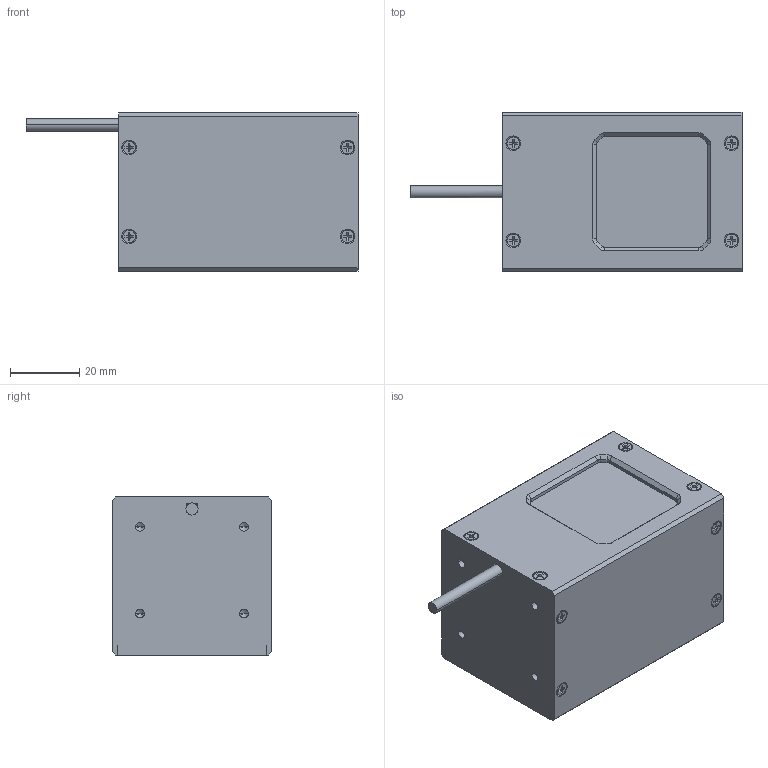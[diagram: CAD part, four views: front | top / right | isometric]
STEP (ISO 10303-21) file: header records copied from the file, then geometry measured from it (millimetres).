
FILE_DESCRIPTION((''),'2;1');
FILE_NAME('PRT0002','2022-10-19T01:14:01',('jiabaodong'),(''),'CREO PARAMETRIC BY PTC INC, 2020044','CREO PARAMETRIC BY PTC INC, 2020044','');
FILE_SCHEMA(('CONFIG_CONTROL_DESIGN'));
Length unit declared in the file: millimetre
Products named in the file (1): PRT0002
Bounding box: 95.74 x 46 x 45.65 mm (x, y, z)
Volume: 51639.4 mm3; surface area: 38527 mm2
Topology: 1 solids, 15 shells, 991 faces, 2351 edges, 1390 vertices
Faces by surface type: plane 568, cylinder 263, cone 120, torus 40
Entity records: 28023 total; most frequent: CARTESIAN_POINT 5252, DIRECTION 4811, ORIENTED_EDGE 4618, EDGE_CURVE 2309, AXIS2_PLACEMENT_3D 1635, VECTOR 1541, LINE 1541, VERTEX_POINT 1390
